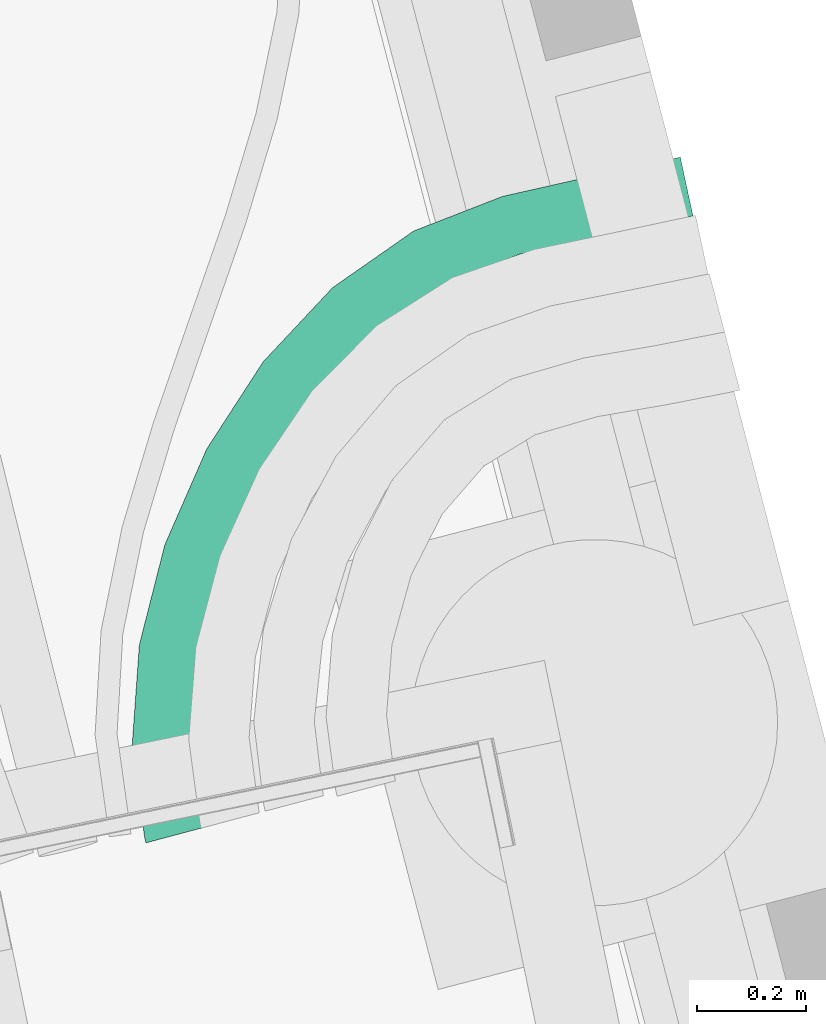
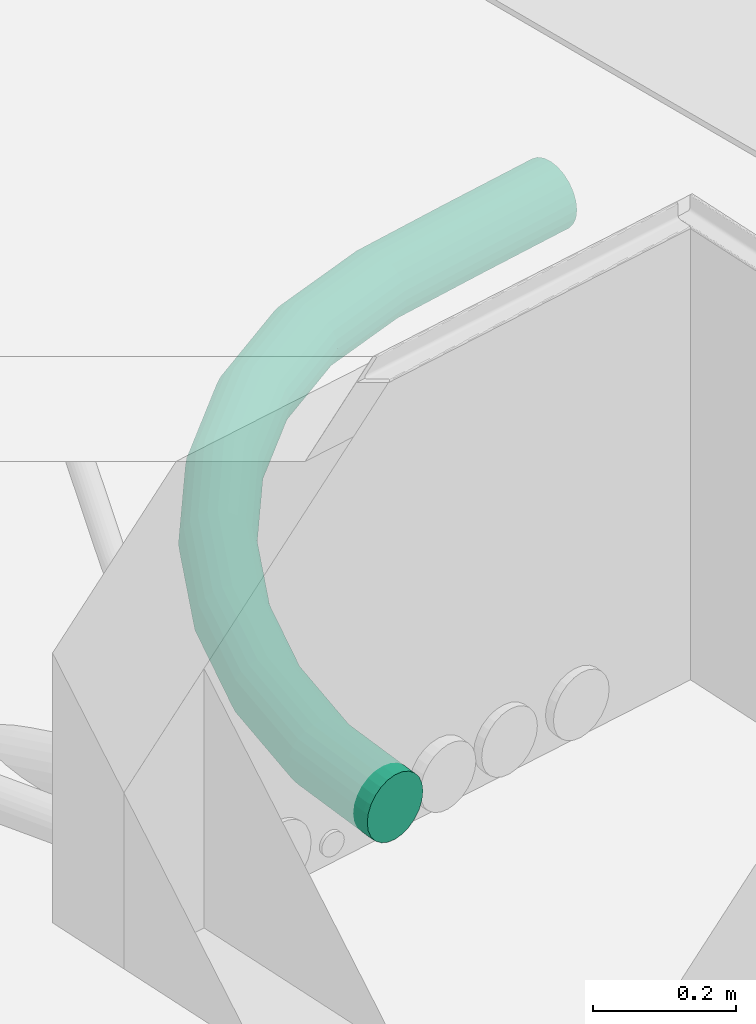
# One storey, part 25 of 29: 1 flow segment.
"""IFC2X3 building model written with IfcOpenShell, lengths in centimetres."""

from ifc_helpers import new_model, entity, si_unit, converted_unit, derived_unit, direction, frame, origin, place, context, subcontext, project, spatial, faceted_brep, type_object, element, save


model = new_model("IFC2X3")

# Units and contexts
model_context = context("Model", 3, precision=0.001, world=origin(), true_north=direction((6.12303176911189e-17, 1.0)))
body_context = subcontext(model_context, "Body", "Model", "MODEL_VIEW")
ifc_project = project(units=[si_unit("LENGTHUNIT", "METRE", prefix="CENTI"), si_unit("AREAUNIT", "SQUARE_METRE"), si_unit("VOLUMEUNIT", "CUBIC_METRE"), converted_unit("PLANEANGLEUNIT", "DEGREE", entity("IfcRatioMeasure", 0.0174532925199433), si_unit("PLANEANGLEUNIT", "RADIAN"), dimensions=[0, 0, 0, 0, 0, 0, 0]), si_unit("MASSUNIT", "GRAM", prefix="KILO"), derived_unit("MASSDENSITYUNIT", [(si_unit("MASSUNIT", "GRAM", prefix="KILO"), 1), (si_unit("LENGTHUNIT", "METRE"), -3)]), si_unit("TIMEUNIT", "SECOND"), si_unit("FREQUENCYUNIT", "HERTZ"), si_unit("THERMODYNAMICTEMPERATUREUNIT", "DEGREE_CELSIUS"), derived_unit("THERMALTRANSMITTANCEUNIT", [(si_unit("MASSUNIT", "GRAM", prefix="KILO"), 1), (si_unit("THERMODYNAMICTEMPERATUREUNIT", "KELVIN"), -1), (si_unit("TIMEUNIT", "SECOND"), -3)]), derived_unit("VOLUMETRICFLOWRATEUNIT", [(si_unit("LENGTHUNIT", "METRE"), 3), (si_unit("TIMEUNIT", "SECOND"), -1)]), si_unit("ELECTRICCURRENTUNIT", "AMPERE"), si_unit("ELECTRICVOLTAGEUNIT", "VOLT"), si_unit("POWERUNIT", "WATT"), si_unit("FORCEUNIT", "NEWTON"), si_unit("ILLUMINANCEUNIT", "LUX"), si_unit("LUMINOUSFLUXUNIT", "LUMEN"), si_unit("LUMINOUSINTENSITYUNIT", "CANDELA"), derived_unit("USERDEFINED", [(si_unit("MASSUNIT", "GRAM", prefix="KILO"), -1), (si_unit("LENGTHUNIT", "METRE"), -2), (si_unit("TIMEUNIT", "SECOND"), 3), (si_unit("LUMINOUSFLUXUNIT", "LUMEN"), 1)]), derived_unit("LINEARVELOCITYUNIT", [(si_unit("LENGTHUNIT", "METRE"), 1), (si_unit("TIMEUNIT", "SECOND"), -1)]), si_unit("PRESSUREUNIT", "PASCAL"), derived_unit("USERDEFINED", [(si_unit("LENGTHUNIT", "METRE"), -2), (si_unit("MASSUNIT", "GRAM", prefix="KILO"), 1), (si_unit("TIMEUNIT", "SECOND"), -2)])], contexts=[model_context])

# Site, building, storey
site_placement = place(None, origin())
site = spatial("IfcSite", under=ifc_project, at=site_placement, Name="Default", CompositionType="ELEMENT")
building_placement = place(site_placement, origin())
building = spatial("IfcBuilding", under=site, at=building_placement, Name="CAGE 03", CompositionType="ELEMENT")
storey_placement = place(building_placement, frame((0.0, 0.0, -34.0)))
storey = spatial("IfcBuildingStorey", under=building, at=storey_placement, Name="+3.66", CompositionType="ELEMENT", Elevation=-34.0000000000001)

# Flow segment
duct_segment_type = type_object("IfcDuctSegmentType", Name="Gaine flexible circulaire:Flex - Round", PredefinedType="FLEXIBLESEGMENT")
flow_segment_placement = place(storey_placement, frame((11580.0807230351, 3539.42399559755, -79.1595272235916)))
element("IfcFlowSegment", 1, at=flow_segment_placement, inside=storey, type_object=duct_segment_type, Name="Gaine flexible circulaire:Flex - Round", ObjectType="Gaine flexible circulaire:Flex - Round", context=body_context, shape_type="Brep", body=[
    faceted_brep([(4.2453181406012, 0.573686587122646, 9.54861452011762), (3.40064625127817, 0.348971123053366, 8.40952722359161), (2.869663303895, 0.207709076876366, 7.08303197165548), (2.68855490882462, 0.15952722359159, 5.65952722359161), (2.869663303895, 0.207709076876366, 4.23602247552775), (3.40064625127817, 0.348971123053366, 2.90952722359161), (4.2453181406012, 0.573686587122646, 1.7704399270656), (5.3461159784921, 0.866541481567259, 0.896387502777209), (6.6280222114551, 1.20757822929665, 0.346935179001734), (8.00367704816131, 1.57355573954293, 0.159527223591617), (9.37933188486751, 1.93953324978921, 0.346935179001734), (10.6612381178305, 2.2805699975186, 0.896387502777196), (11.7620359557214, 2.57342489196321, 1.77043992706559), (12.6067078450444, 2.79814035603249, 2.9095272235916), (13.1376907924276, 2.93940240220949, 4.23602247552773), (13.318799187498, 2.98758425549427, 5.6595272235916), (13.1376907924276, 2.93940240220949, 7.08303197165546), (12.6067078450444, 2.79814035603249, 8.4095272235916), (11.7620359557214, 2.57342489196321, 9.54861452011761), (10.6612381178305, 2.2805699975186, 10.422666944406), (9.37933188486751, 1.93953324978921, 10.9721192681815), (8.00367704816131, 1.57355573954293, 11.1595272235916), (6.6280222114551, 1.20757822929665, 10.9721192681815), (5.3461159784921, 0.866541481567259, 10.422666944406), (2.45771376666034, 1.02722462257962, 5.65952722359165), (2.64183313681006, 1.06408866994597, 4.23602247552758), (3.18164381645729, 1.17216858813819, 2.90952722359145), (4.04035859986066, 1.34409890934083, 1.77043992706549), (5.15945749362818, 1.56816286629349, 0.896387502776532), (6.4626757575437, 1.82909087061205, 0.34693517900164), (7.86120122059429, 2.10910111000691, 0.159527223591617), (9.25972668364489, 2.38911134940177, 0.34693517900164), (10.5629449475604, 2.65003935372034, 0.896387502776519), (11.6820438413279, 2.87410331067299, 1.77043992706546), (13.0805693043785, 3.15411355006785, 4.23602247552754), (13.2646886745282, 3.19097759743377, 5.6595272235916), (12.540758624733, 3.04603363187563, 2.9095272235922), (12.540758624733, 3.04603363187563, 8.40952722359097), (11.6820438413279, 2.87410331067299, 9.54861452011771), (13.0805693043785, 3.15411355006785, 7.08303197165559), (9.25972668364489, 2.38911134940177, 10.9721192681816), (7.86120122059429, 2.10910111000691, 11.1595272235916), (10.5629449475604, 2.65003935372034, 10.4226669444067), (6.4626757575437, 1.82909087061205, 10.9721192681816), (5.15945749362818, 1.56816286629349, 10.4226669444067), (4.04035859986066, 1.34409890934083, 9.54861452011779), (3.18164381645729, 1.17216858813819, 8.40952722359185), (2.64183313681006, 1.06408866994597, 7.08303197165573), (100.590205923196, 124.880346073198, 8.40952722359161), (100.774928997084, 124.026036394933, 9.54861452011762), (101.015664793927, 122.912678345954, 10.422666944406), (101.296007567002, 121.616145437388, 10.9721192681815), (101.596852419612, 120.224794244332, 11.1595272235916), (101.897697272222, 118.833443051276, 10.9721192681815), (102.178040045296, 117.536910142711, 10.422666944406), (102.418775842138, 116.423552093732, 9.54861452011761), (102.603498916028, 115.569242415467, 8.4095272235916), (102.719620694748, 115.032200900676, 7.08303197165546), (102.75922767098, 114.849026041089, 5.6595272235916), (102.719620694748, 115.032200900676, 4.23602247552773), (102.603498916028, 115.569242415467, 2.9095272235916), (102.418775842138, 116.423552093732, 1.77043992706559), (102.178040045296, 117.536910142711, 0.896387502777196), (101.897697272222, 118.833443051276, 0.346935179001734), (101.596852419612, 120.224794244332, 0.159527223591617), (101.296007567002, 121.616145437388, 0.346935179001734), (101.015664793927, 122.912678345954, 0.896387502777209), (100.774928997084, 124.026036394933, 1.7704399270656), (100.590205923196, 124.880346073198, 2.90952722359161), (100.474084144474, 125.417387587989, 4.23602247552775), (100.434477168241, 125.600562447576, 5.65952722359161), (100.474084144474, 125.417387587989, 7.08303197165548), (0.15952722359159, 17.922628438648, 5.65952722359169), (0.347838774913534, 17.9286731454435, 4.23602247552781), (0.899940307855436, 17.9463953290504, 2.90952722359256), (1.77820701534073, 17.9745872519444, 1.77043992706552), (2.92278647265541, 18.0113276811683, 0.896387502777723), (4.25567748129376, 18.0541128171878, 0.346935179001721), (5.68604572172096, 18.1000269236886, 0.159527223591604), (7.11641396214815, 18.1459410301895, 0.346935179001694), (8.44930497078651, 18.1887261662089, 0.896387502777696), (9.59388442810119, 18.2254665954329, 1.77043992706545), (10.4721511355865, 18.2536585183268, 2.90952722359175), (11.0242526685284, 18.2713807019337, 4.23602247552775), (11.2125642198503, 18.2774254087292, 5.65952722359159), (11.0242526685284, 18.2713807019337, 7.0830319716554), (10.4721511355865, 18.2536585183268, 8.40952722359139), (9.59388442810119, 18.2254665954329, 9.54861452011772), (7.11641396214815, 18.1459410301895, 10.9721192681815), (5.68604572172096, 18.1000269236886, 11.1595272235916), (8.44930497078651, 18.1887261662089, 10.4226669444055), (4.25567748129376, 18.0541128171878, 10.9721192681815), (2.92278647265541, 18.0113276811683, 10.4226669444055), (1.77820701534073, 17.9745872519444, 9.5486145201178), (0.899940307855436, 17.9463953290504, 8.40952722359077), (0.347838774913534, 17.9286731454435, 7.08303197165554), (1.47176142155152, 36.3691315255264, 5.65952722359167), (1.6575075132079, 36.3391127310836, 4.23602247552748), (2.20208749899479, 36.2511020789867, 2.90952722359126), (3.06838915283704, 36.1110973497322, 1.77043992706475), (4.19737544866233, 35.9286396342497, 0.89638750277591), (5.51210783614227, 35.7161631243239, 0.346935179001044), (6.92298947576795, 35.488147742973, 0.159527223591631), (8.33387111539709, 35.2601323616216, 0.346935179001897), (9.64860350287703, 35.0476558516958, 0.896387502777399), (10.7775897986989, 34.8651981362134, 1.77043992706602), (11.6438914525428, 34.7251934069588, 2.90952722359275), (12.188471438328, 34.6371827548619, 4.2360224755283), (12.3742175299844, 34.6071639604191, 5.65952722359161), (12.188471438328, 34.6371827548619, 7.08303197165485), (11.6438914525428, 34.7251934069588, 8.40952722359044), (10.7775897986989, 34.8651981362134, 9.54861452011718), (8.33387111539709, 35.2601323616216, 10.9721192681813), (6.92298947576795, 35.488147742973, 11.1595272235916), (9.64860350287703, 35.0476558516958, 10.4226669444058), (5.51210783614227, 35.7161631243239, 10.9721192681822), (4.19737544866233, 35.9286396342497, 10.4226669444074), (3.06838915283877, 36.1110973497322, 9.54861452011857), (2.20208749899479, 36.2511020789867, 8.40952722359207), (1.6575075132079, 36.3391127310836, 7.08303197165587), (6.14808643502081, 54.7263219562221, 5.65952722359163), (6.32591839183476, 54.6652357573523, 4.23602247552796), (6.84729530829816, 54.4861400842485, 2.90952722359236), (7.67668620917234, 54.20124001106, 1.77043992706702), (8.75756947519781, 53.829951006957, 0.896387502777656), (10.0162846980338, 53.3975758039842, 0.346935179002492), (11.3670525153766, 52.933580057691, 0.159527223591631), (12.7178203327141, 52.4695843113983, 0.346935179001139), (13.9765355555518, 52.0372091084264, 0.896387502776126), (15.057418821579, 51.6659201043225, 1.77043992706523), (15.8868097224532, 51.3810200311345, 2.9095272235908), (16.4081866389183, 51.2019243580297, 4.23602247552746), (16.5860185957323, 51.14083815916, 5.65952722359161), (16.4081866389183, 51.2019243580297, 7.08303197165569), (15.8868097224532, 51.3810200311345, 8.40952722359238), (15.057418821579, 51.6659201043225, 9.54861452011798), (12.7178203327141, 52.4695843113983, 10.9721192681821), (11.3670525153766, 52.933580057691, 11.1595272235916), (13.9765355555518, 52.0372091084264, 10.4226669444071), (10.0162846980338, 53.3975758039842, 10.9721192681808), (8.75756947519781, 53.829951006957, 10.4226669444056), (7.67668620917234, 54.20124001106, 9.54861452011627), (6.84729530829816, 54.4861400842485, 8.40952722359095), (6.32591839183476, 54.6652357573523, 7.08303197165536), (13.811384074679, 72.246809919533, 5.65952722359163), (13.9769639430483, 72.1577119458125, 4.23602247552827), (14.4624195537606, 71.8964899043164, 2.90952722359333), (15.2346679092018, 71.4809456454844, 1.77043992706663), (16.2410815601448, 70.9393978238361, 0.89638750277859), (17.4130750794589, 70.3087520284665, 0.346935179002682), (18.6707790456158, 69.6319857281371, 0.159527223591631), (19.9284830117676, 68.9552194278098, 0.346935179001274), (21.1004765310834, 68.3245736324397, 0.896387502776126), (22.1068901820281, 67.783025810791, 1.77043992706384), (22.8791385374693, 67.3674815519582, 2.90952722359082), (23.3645941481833, 67.1062595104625, 4.23602247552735), (23.5301740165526, 67.0171615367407, 5.65952722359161), (23.3645941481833, 67.1062595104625, 7.0830319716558), (22.8791385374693, 67.3674815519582, 8.40952722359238), (22.1068901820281, 67.783025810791, 9.54861452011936), (19.9284830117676, 68.9552194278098, 10.972119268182), (18.6707790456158, 69.6319857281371, 11.1595272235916), (21.1004765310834, 68.3245736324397, 10.4226669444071), (17.4130750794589, 70.3087520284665, 10.9721192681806), (16.2410815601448, 70.9393978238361, 10.4226669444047), (15.2346679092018, 71.4809456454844, 9.54861452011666), (14.4624195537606, 71.8964899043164, 8.40952722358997), (13.9769639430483, 72.1577119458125, 7.08303197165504), (24.1375902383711, 88.1812552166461, 5.65952722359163), (24.285783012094, 88.0653270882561, 4.23602247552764), (24.7202622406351, 87.7254430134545, 2.90952722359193), (25.4114188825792, 87.1847655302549, 1.77043992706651), (26.312151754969, 86.4801409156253, 0.896387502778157), (27.3610774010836, 85.6595881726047, 0.346935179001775), (28.4867132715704, 84.779026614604, 0.159527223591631), (29.6123491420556, 83.8984650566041, 0.346935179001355), (30.6612747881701, 83.0779123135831, 0.89638750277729), (31.56200766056, 82.3732876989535, 1.77043992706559), (32.2531643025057, 81.8326102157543, 2.90952722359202), (32.6876435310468, 81.4927261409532, 4.23602247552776), (32.8358363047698, 81.3767980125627, 5.65952722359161), (32.6876435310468, 81.4927261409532, 7.0830319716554), (32.2531643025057, 81.8326102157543, 8.40952722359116), (31.56200766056, 82.3732876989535, 9.54861452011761), (29.6123491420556, 83.8984650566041, 10.9721192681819), (28.4867132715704, 84.779026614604, 11.1595272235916), (30.6612747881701, 83.0779123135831, 10.4226669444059), (27.3610774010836, 85.6595881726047, 10.9721192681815), (26.312151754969, 86.4801409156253, 10.4226669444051), (25.4114188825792, 87.1847655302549, 9.54861452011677), (24.7202622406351, 87.7254430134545, 8.40952722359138), (24.285783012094, 88.0653270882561, 7.08303197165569), (36.8469845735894, 101.750608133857, 5.65952722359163), (36.970347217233, 101.60816978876, 4.23602247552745), (37.3320281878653, 101.190561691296, 2.90952722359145), (37.9073795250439, 100.526243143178, 1.77043992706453), (38.6571919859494, 99.6604863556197, 0.896387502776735), (39.5303670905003, 98.6522912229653, 0.34693517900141), (40.4673993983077, 97.5703645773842, 0.159527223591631), (41.4044317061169, 96.4884379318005, 0.346935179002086), (42.2776068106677, 95.480242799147, 0.896387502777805), (43.027419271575, 94.6144860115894, 1.77043992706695), (43.6027706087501, 93.9501674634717, 2.90952722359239), (43.9644515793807, 93.5325593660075, 4.23602247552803), (44.0878142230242, 93.3901210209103, 5.65952722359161), (43.9644515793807, 93.5325593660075, 7.08303197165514), (43.6027706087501, 93.9501674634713, 8.4095272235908), (43.027419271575, 94.6144860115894, 9.54861452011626), (41.4044317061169, 96.4884379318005, 10.9721192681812), (40.4673993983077, 97.5703645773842, 11.1595272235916), (42.2776068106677, 95.4802427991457, 10.4226669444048), (39.5303670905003, 98.6522912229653, 10.9721192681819), (38.6571919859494, 99.6604863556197, 10.4226669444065), (37.9073795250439, 100.526243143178, 9.54861452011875), (37.3320281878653, 101.190561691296, 8.40952722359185), (36.970347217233, 101.60816978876, 7.08303197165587), (51.6560122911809, 112.087637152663, 5.65952722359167), (51.7449243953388, 111.921151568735, 4.23602247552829), (52.0056014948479, 111.433040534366, 2.90952722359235), (52.4202788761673, 110.656568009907, 1.77043992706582), (52.960696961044, 109.644649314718, 0.896387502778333), (53.5900271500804, 108.4662450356, 0.346935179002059), (54.2653816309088, 107.201661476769, 0.159527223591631), (54.9407361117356, 105.937077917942, 0.346935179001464), (55.5700663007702, 104.758673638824, 0.896387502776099), (56.1104843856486, 103.746754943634, 1.77043992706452), (56.5251617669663, 102.970282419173, 2.90952722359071), (56.7858388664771, 102.482171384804, 4.23602247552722), (56.874750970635, 102.315685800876, 5.65952722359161), (56.7858388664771, 102.482171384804, 7.08303197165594), (56.5251617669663, 102.970282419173, 8.40952722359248), (56.1104843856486, 103.746754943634, 9.54861452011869), (54.9407361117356, 105.937077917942, 10.9721192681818), (54.2653816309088, 107.201661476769, 11.1595272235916), (55.5700663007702, 104.758673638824, 10.4226669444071), (53.5900271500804, 108.4662450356, 10.9721192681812), (52.960696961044, 109.644649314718, 10.4226669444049), (52.4202788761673, 110.656568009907, 9.54861452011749), (52.0056014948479, 111.433040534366, 8.40952722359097), (51.7449243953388, 111.921151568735, 7.08303197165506), (67.8848998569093, 118.412815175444, 5.65952722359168), (67.9398335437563, 118.233086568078, 4.23602247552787), (68.1008909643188, 117.706148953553, 2.90952722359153), (68.3570963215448, 116.867912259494, 1.77043992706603), (68.6909896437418, 115.775500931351, 0.896387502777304), (69.0798166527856, 114.503360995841, 0.346935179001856), (69.4970794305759, 113.138186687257, 0.159527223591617), (69.9143422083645, 111.773012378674, 0.34693517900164), (70.3031692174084, 110.500872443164, 0.896387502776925), (70.6370625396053, 109.40846111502, 1.77043992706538), (70.8932678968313, 108.570224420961, 2.90952722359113), (71.0543253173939, 108.043286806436, 4.23602247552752), (71.1092590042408, 107.863558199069, 5.6595272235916), (71.0543253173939, 108.043286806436, 7.08303197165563), (70.8932678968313, 108.570224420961, 8.40952722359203), (70.6370625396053, 109.40846111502, 9.5486145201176), (69.9143422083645, 111.773012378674, 10.9721192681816), (69.4970794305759, 113.138186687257, 11.1595272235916), (70.3031692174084, 110.500872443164, 10.4226669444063), (69.0798166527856, 114.50336099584, 10.9721192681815), (68.6909896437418, 115.775500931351, 10.422666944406), (68.3570963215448, 116.867912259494, 9.54861452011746), (68.1008909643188, 117.706148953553, 8.4095272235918), (67.9398335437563, 118.233086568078, 7.0830319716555), (84.3380734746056, 122.120118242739, 5.65952722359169), (84.378475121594, 121.937115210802, 4.23602247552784), (84.4969267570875, 121.400577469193, 2.90952722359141), (84.6853560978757, 120.54706917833, 1.77043992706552), (84.9309219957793, 119.434755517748, 0.896387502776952), (85.2168895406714, 118.13943882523, 0.346935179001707), (85.5237705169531, 116.749392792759, 0.159527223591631), (85.8306514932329, 115.359346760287, 0.34693517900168), (86.1166190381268, 114.064030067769, 0.896387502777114), (86.3621849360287, 112.951716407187, 1.77043992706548), (86.5506142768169, 112.098208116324, 2.90952722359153), (86.6690659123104, 111.561670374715, 4.23602247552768), (86.7094675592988, 111.378667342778, 5.65952722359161), (86.6690659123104, 111.561670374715, 7.08303197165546), (86.5506142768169, 112.098208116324, 8.40952722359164), (86.3621849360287, 112.951716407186, 9.54861452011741), (85.8306514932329, 115.359346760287, 10.9721192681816), (85.5237705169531, 116.749392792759, 11.1595272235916), (86.1166190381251, 114.064030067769, 10.4226669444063), (85.2168895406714, 118.13943882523, 10.9721192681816), (84.9309219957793, 119.434755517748, 10.4226669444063), (84.6853560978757, 120.54706917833, 9.5486145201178), (84.4969267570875, 121.400577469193, 8.40952722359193), (84.378475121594, 121.937115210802, 7.08303197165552)], [[[0, 1, 2, 3, 4, 5, 6, 7, 8, 9, 10, 11, 12, 13, 14, 15, 16, 17, 18, 19, 20, 21, 22, 23]], [[3, 24, 25, 4]], [[4, 25, 26, 5]], [[5, 26, 27, 6]], [[7, 28, 29, 8]], [[8, 29, 30, 9]], [[6, 27, 28, 7]], [[31, 32, 11, 10]], [[30, 31, 10, 9]], [[11, 32, 33, 12]], [[34, 35, 15, 14]], [[36, 34, 14, 13]], [[12, 33, 36, 13]], [[17, 37, 38, 18]], [[39, 37, 17, 16]], [[15, 35, 39, 16]], [[40, 41, 21, 20]], [[42, 40, 20, 19]], [[38, 42, 19, 18]], [[23, 22, 43, 44]], [[0, 23, 44, 45]], [[21, 41, 43, 22]], [[2, 1, 46, 47]], [[3, 2, 47, 24]], [[45, 46, 1, 0]], [[48, 49, 50, 51, 52, 53, 54, 55, 56, 57, 58, 59, 60, 61, 62, 63, 64, 65, 66, 67, 68, 69, 70, 71]], [[24, 72, 73, 25]], [[25, 73, 74, 26]], [[26, 74, 75, 27]], [[27, 75, 76, 28]], [[28, 76, 77, 29]], [[78, 30, 29, 77]], [[79, 80, 32, 31]], [[78, 79, 31, 30]], [[81, 33, 32, 80]], [[82, 83, 34, 36]], [[82, 36, 33, 81]], [[84, 35, 34, 83]], [[85, 86, 37, 39]], [[84, 85, 39, 35]], [[38, 37, 86, 87]], [[88, 89, 41, 40]], [[90, 88, 40, 42]], [[87, 90, 42, 38]], [[43, 41, 89, 91]], [[44, 43, 91, 92]], [[45, 44, 92, 93]], [[47, 46, 94, 95]], [[24, 47, 95, 72]], [[93, 94, 46, 45]], [[73, 72, 96, 97]], [[74, 73, 97, 98]], [[98, 99, 75, 74]], [[76, 75, 99, 100]], [[77, 76, 100, 101]], [[78, 77, 101, 102]], [[103, 104, 80, 79]], [[102, 103, 79, 78]], [[81, 80, 104, 105]], [[106, 107, 83, 82]], [[105, 106, 82, 81]], [[84, 83, 107, 108]], [[109, 110, 86, 85]], [[108, 109, 85, 84]], [[111, 87, 86, 110]], [[112, 113, 89, 88]], [[114, 112, 88, 90]], [[114, 90, 87, 111]], [[89, 113, 115, 91]], [[91, 115, 116, 92]], [[117, 93, 92, 116]], [[94, 118, 119, 95]], [[95, 119, 96, 72]], [[118, 94, 93, 117]], [[97, 96, 120, 121]], [[98, 97, 121, 122]], [[122, 123, 99, 98]], [[100, 99, 123, 124]], [[101, 100, 124, 125]], [[102, 101, 125, 126]], [[127, 128, 104, 103]], [[126, 127, 103, 102]], [[105, 104, 128, 129]], [[130, 131, 107, 106]], [[129, 130, 106, 105]], [[108, 107, 131, 132]], [[133, 134, 110, 109]], [[132, 133, 109, 108]], [[135, 111, 110, 134]], [[136, 137, 113, 112]], [[138, 136, 112, 114]], [[138, 114, 111, 135]], [[113, 137, 139, 115]], [[115, 139, 140, 116]], [[141, 117, 116, 140]], [[118, 142, 143, 119]], [[119, 143, 120, 96]], [[142, 118, 117, 141]], [[121, 120, 144, 145]], [[122, 121, 145, 146]], [[146, 147, 123, 122]], [[124, 123, 147, 148]], [[125, 124, 148, 149]], [[126, 125, 149, 150]], [[151, 152, 128, 127]], [[150, 151, 127, 126]], [[129, 128, 152, 153]], [[154, 155, 131, 130]], [[153, 154, 130, 129]], [[132, 131, 155, 156]], [[157, 158, 134, 133]], [[156, 157, 133, 132]], [[159, 135, 134, 158]], [[160, 161, 137, 136]], [[162, 160, 136, 138]], [[162, 138, 135, 159]], [[137, 161, 163, 139]], [[139, 163, 164, 140]], [[165, 141, 140, 164]], [[142, 166, 167, 143]], [[143, 167, 144, 120]], [[166, 142, 141, 165]], [[144, 168, 169, 145]], [[145, 169, 170, 146]], [[146, 170, 171, 147]], [[147, 171, 172, 148]], [[148, 172, 173, 149]], [[174, 150, 149, 173]], [[175, 176, 152, 151]], [[174, 175, 151, 150]], [[177, 153, 152, 176]], [[178, 179, 155, 154]], [[178, 154, 153, 177]], [[180, 156, 155, 179]], [[181, 182, 158, 157]], [[180, 181, 157, 156]], [[159, 158, 182, 183]], [[184, 185, 161, 160]], [[186, 184, 160, 162]], [[183, 186, 162, 159]], [[163, 161, 185, 187]], [[164, 163, 187, 188]], [[165, 164, 188, 189]], [[167, 166, 190, 191]], [[144, 167, 191, 168]], [[189, 190, 166, 165]], [[168, 192, 193, 169]], [[169, 193, 194, 170]], [[170, 194, 195, 171]], [[171, 195, 196, 172]], [[172, 196, 197, 173]], [[198, 174, 173, 197]], [[199, 200, 176, 175]], [[198, 199, 175, 174]], [[201, 177, 176, 200]], [[202, 203, 179, 178]], [[202, 178, 177, 201]], [[204, 180, 179, 203]], [[205, 206, 182, 181]], [[204, 205, 181, 180]], [[183, 182, 206, 207]], [[208, 209, 185, 184]], [[210, 208, 184, 186]], [[207, 210, 186, 183]], [[187, 185, 209, 211]], [[188, 187, 211, 212]], [[189, 188, 212, 213]], [[191, 190, 214, 215]], [[168, 191, 215, 192]], [[213, 214, 190, 189]], [[192, 216, 217, 193]], [[193, 217, 218, 194]], [[194, 218, 219, 195]], [[195, 219, 220, 196]], [[196, 220, 221, 197]], [[222, 198, 197, 221]], [[223, 224, 200, 199]], [[222, 223, 199, 198]], [[225, 201, 200, 224]], [[226, 227, 203, 202]], [[226, 202, 201, 225]], [[228, 204, 203, 227]], [[229, 230, 206, 205]], [[228, 229, 205, 204]], [[207, 206, 230, 231]], [[232, 233, 209, 208]], [[234, 232, 208, 210]], [[231, 234, 210, 207]], [[211, 209, 233, 235]], [[212, 211, 235, 236]], [[213, 212, 236, 237]], [[215, 214, 238, 239]], [[192, 215, 239, 216]], [[237, 238, 214, 213]], [[217, 216, 240, 241]], [[218, 217, 241, 242]], [[242, 243, 219, 218]], [[220, 219, 243, 244]], [[221, 220, 244, 245]], [[222, 221, 245, 246]], [[247, 248, 224, 223]], [[246, 247, 223, 222]], [[225, 224, 248, 249]], [[250, 251, 227, 226]], [[249, 250, 226, 225]], [[228, 227, 251, 252]], [[253, 254, 230, 229]], [[252, 253, 229, 228]], [[255, 231, 230, 254]], [[256, 257, 233, 232]], [[258, 256, 232, 234]], [[258, 234, 231, 255]], [[233, 257, 259, 235]], [[235, 259, 260, 236]], [[261, 237, 236, 260]], [[238, 262, 263, 239]], [[239, 263, 240, 216]], [[262, 238, 237, 261]], [[241, 240, 264, 265]], [[242, 241, 265, 266]], [[266, 267, 243, 242]], [[244, 243, 267, 268]], [[245, 244, 268, 269]], [[246, 245, 269, 270]], [[271, 272, 248, 247]], [[270, 271, 247, 246]], [[249, 248, 272, 273]], [[274, 275, 251, 250]], [[273, 274, 250, 249]], [[252, 251, 275, 276]], [[277, 278, 254, 253]], [[276, 277, 253, 252]], [[279, 255, 254, 278]], [[280, 281, 257, 256]], [[282, 280, 256, 258]], [[282, 258, 255, 279]], [[257, 281, 283, 259]], [[259, 283, 284, 260]], [[285, 261, 260, 284]], [[262, 286, 287, 263]], [[263, 287, 264, 240]], [[286, 262, 261, 285]], [[265, 264, 70, 69]], [[266, 265, 69, 68]], [[68, 67, 267, 266]], [[269, 268, 66, 65]], [[270, 269, 65, 64]], [[67, 66, 268, 267]], [[271, 270, 64, 63]], [[272, 271, 63, 62]], [[273, 272, 62, 61]], [[275, 274, 60, 59]], [[276, 275, 59, 58]], [[61, 60, 274, 273]], [[276, 58, 57, 277]], [[277, 57, 56, 278]], [[55, 279, 278, 56]], [[282, 54, 53, 280]], [[280, 53, 52, 281]], [[54, 282, 279, 55]], [[281, 52, 51, 283]], [[283, 51, 50, 284]], [[49, 285, 284, 50]], [[286, 48, 71, 287]], [[287, 71, 70, 264]], [[48, 286, 285, 49]]]),
])

save(model, "model.ifc")
